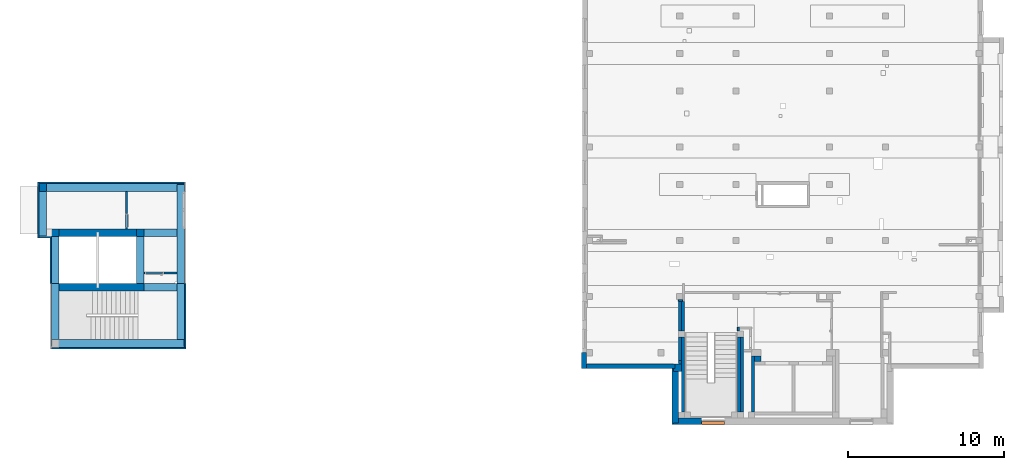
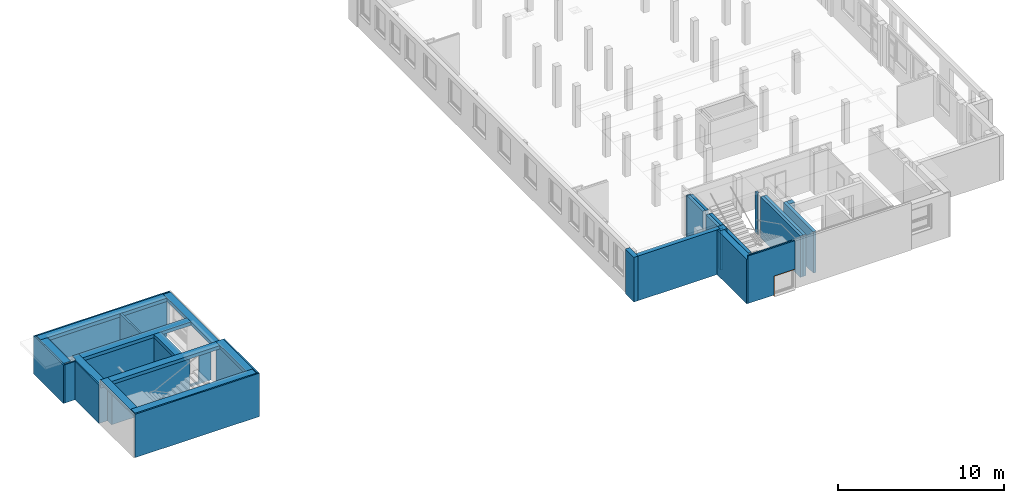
# One storey, part 3 of 27: 37 walls, 1 proxy, 3 openings.
"""IFC4 building model written with IfcOpenShell, lengths in metres."""

from ifc_helpers import new_model, entity, si_unit, converted_unit, derived_unit, frame, frame_2d, origin, origin_with_axes, place, context, subcontext, project, spatial, polyline, rectangle, outline, extrude, clip, bounded_halfspace, faceted_brep, material, layer, layer_set, layer_usage, element, fill, save


model = new_model("IFC4")

# Units and contexts
model_context = context("Model", 3, precision=1e-05, world=origin())
body_context = subcontext(model_context, "Body", "Model", "MODEL_VIEW")
ifc_project = project(units=[si_unit("LENGTHUNIT", "METRE"), si_unit("AREAUNIT", "SQUARE_METRE"), si_unit("VOLUMEUNIT", "CUBIC_METRE"), si_unit("MASSUNIT", "GRAM", prefix="KILO"), converted_unit("PLANEANGLEUNIT", "DEGREE", entity("IfcPlaneAngleMeasure", 0.0174532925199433), si_unit("PLANEANGLEUNIT", "RADIAN"), dimensions=[0, 0, 0, 0, 0, 0, 0]), derived_unit("THERMALTRANSMITTANCEUNIT", [(si_unit("POWERUNIT", "WATT"), 1), (si_unit("THERMODYNAMICTEMPERATUREUNIT", "KELVIN"), -1), (si_unit("LENGTHUNIT", "METRE"), -2)]), derived_unit("VOLUMETRICFLOWRATEUNIT", [(si_unit("LENGTHUNIT", "METRE"), 3), (converted_unit("TIMEUNIT", "hour", entity("IfcTimeMeasure", 3600.0), si_unit("TIMEUNIT", "SECOND"), dimensions=[0, 0, 1, 0, 0, 0, 0]), -1), (si_unit("LENGTHUNIT", "METRE"), -1)])], contexts=[model_context])

# Site, building, storey
site_placement = place(None, origin())
site = spatial("IfcSite", under=ifc_project, at=site_placement, Name="3. ASŘ", CompositionType="ELEMENT")
building_placement = place(site_placement, origin())
building = spatial("IfcBuilding", under=site, at=building_placement, Name="Pavilon C", CompositionType="ELEMENT")
storey_placement = place(building_placement, frame((0.0, 0.0, 10.5)))
storey = spatial("IfcBuildingStorey", under=building, at=storey_placement, Name="Půdorys 4.NP", CompositionType="ELEMENT", Elevation=10.5)

# Walls
ifc_material_1 = material(Name="ZDIVO Z CDm")
ifc_layer_1 = layer(ifc_material_1, 0.5)
ifc_layer_set_1 = layer_set([ifc_layer_1])
ifc_layer_usage_1 = layer_usage(ifc_layer_set_1, "AXIS2", "POSITIVE", 0.0)
wall_1_placement = place(storey_placement, frame((-9.07499999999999, 3.95, -0.42)))
element("IfcWall", 1, at=wall_1_placement, inside=storey, material=ifc_layer_usage_1, Name="ZDIVO Z CDm", context=body_context, shape_type="SweptSolid", body=[
    extrude(rectangle(XDim=5.45, YDim=0.5, at=frame_2d((2.725, 0.25), x_axis=(1.0, 0.0))), origin_with_axes(), (0.0, 0.0, 1.0), 2.95),
])
ifc_material_2 = material(Name="ZDIVO Z CDm")
ifc_layer_2 = layer(ifc_material_2, 0.5)
ifc_layer_set_2 = layer_set([ifc_layer_2])
ifc_layer_usage_2 = layer_usage(ifc_layer_set_2, "AXIS2", "POSITIVE", 0.0)
wall_2_placement = place(storey_placement, frame((-3.62499999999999, 4.45, -0.42), z_axis=(0.0, 0.0, 1.0), x_axis=(0.0, 1.0, 0.0)))
element("IfcWall", 2, at=wall_2_placement, inside=storey, material=ifc_layer_usage_2, Name="ZDIVO Z CDm", context=body_context, shape_type="SweptSolid", body=[
    extrude(rectangle(XDim=3.5, YDim=0.5, at=frame_2d((1.75, 0.25), x_axis=(1.0, 0.0))), origin_with_axes(), (0.0, 0.0, 1.0), 2.57),
])
ifc_material_3 = material(Name="ZELEZOBETONOVÁ KCE")
ifc_layer_3 = layer(ifc_material_3, 0.3)
ifc_layer_set_3 = layer_set([ifc_layer_3])
ifc_layer_usage_3 = layer_usage(ifc_layer_set_3, "AXIS2", "POSITIVE", 0.0)
wall_3_placement = place(storey_placement, frame((24.75, -1.02, -0.1)))
element("IfcWall", 3, at=wall_3_placement, inside=storey, material=ifc_layer_usage_3, Name="ZELEZOBETONOVÁ KCE", context=body_context, shape_type="SweptSolid", body=[
    extrude(rectangle(XDim=5.7, YDim=0.3, at=frame_2d((2.85, 0.15), x_axis=(1.0, 0.0))), origin_with_axes(), (0.0, 0.0, 1.0), 3.3),
])
ifc_material_4 = material(Name="ZELEZOBETONOVÁ KCE")
ifc_layer_4 = layer(ifc_material_4, 0.3)
ifc_layer_set_4 = layer_set([ifc_layer_4])
ifc_layer_usage_4 = layer_usage(ifc_layer_set_4, "AXIS2", "POSITIVE", 0.0)
wall_4_placement = place(storey_placement, frame((24.45, -2.72848410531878e-15, -0.1), z_axis=(0.0, 0.0, 1.0), x_axis=(0.0, -1.0, 0.0)))
element("IfcWall", 4, at=wall_4_placement, inside=storey, material=ifc_layer_usage_4, Name="ZELEZOBETONOVÁ KCE", context=body_context, shape_type="SweptSolid", body=[
    extrude(rectangle(XDim=1.02, YDim=0.3, at=frame_2d((0.51, 0.15), x_axis=(1.0, 0.0))), origin_with_axes(), (0.0, 0.0, 1.0), 3.3),
])
ifc_material_5 = material(Name="ZDIVO Z CDm")
ifc_layer_5 = layer(ifc_material_5, 0.35)
ifc_layer_set_5 = layer_set([ifc_layer_5])
ifc_layer_usage_5 = layer_usage(ifc_layer_set_5, "AXIS2", "POSITIVE", 0.0)
wall_5_placement = place(storey_placement, frame((35.95, -0.200000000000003, -0.1), z_axis=(0.0, 0.0, 1.0), x_axis=(-1.0, 0.0, 0.0)))
element("IfcWall", 5, at=wall_5_placement, inside=storey, material=ifc_layer_usage_5, Name="ZDIVO Z CDm", context=body_context, shape_type="SweptSolid", body=[
    extrude(rectangle(XDim=0.4, YDim=0.35, at=frame_2d((0.2, 0.175), x_axis=(1.0, 0.0))), origin_with_axes(), (0.0, 0.0, 1.0), 3.05),
])
ifc_material_6 = material(Name="ZDIVO Z CDm")
ifc_layer_6 = layer(ifc_material_6, 0.2)
ifc_layer_set_6 = layer_set([ifc_layer_6])
ifc_layer_usage_6 = layer_usage(ifc_layer_set_6, "AXIS2", "POSITIVE", 0.0)
wall_6_placement = place(storey_placement, frame((30.65, -0.499999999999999, -0.1), z_axis=(0.0, 0.0, 1.0), x_axis=(0.0, -1.0, 0.0)))
element("IfcWall", 6, at=wall_6_placement, inside=storey, material=ifc_layer_usage_6, Name="ZDIVO Z CDm", context=body_context, shape_type="SweptSolid", body=[
    extrude(rectangle(XDim=0.220000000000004, YDim=0.2, at=frame_2d((0.110000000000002, 0.1), x_axis=(1.0, 0.0))), origin_with_axes(), (0.0, 0.0, 1.0), 3.05),
])
ifc_material_7 = material(Name="ZDIVO Z CDm")
ifc_layer_7 = layer(ifc_material_7, 0.125)
ifc_layer_set_7 = layer_set([ifc_layer_7])
ifc_layer_usage_7 = layer_usage(ifc_layer_set_7, "AXIS2", "POSITIVE", 0.0)
wall_7_placement = place(storey_placement, frame((34.45, 1.6500125, -0.1), z_axis=(0.0, 0.0, 1.0), x_axis=(0.0, -1.0, 0.0)))
element("IfcWall", 7, at=wall_7_placement, inside=storey, material=ifc_layer_usage_7, Name="ZDIVO Z CDm", context=body_context, shape_type="SweptSolid", body=[
    extrude(rectangle(XDim=0.25, YDim=0.125, at=frame_2d((0.125, 0.0625), x_axis=(1.0, 0.0))), origin_with_axes(), (0.0, 0.0, 1.0), 3.05),
])
ifc_material_8 = material(Name="ZELEZOBETONOVÁ KCE")
ifc_layer_8 = layer(ifc_material_8, 0.2)
ifc_layer_set_8 = layer_set([ifc_layer_8])
ifc_layer_usage_8 = layer_usage(ifc_layer_set_8, "AXIS2", "POSITIVE", 0.0)
wall_8_placement = place(storey_placement, frame((31.05, -3.79999999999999, -0.1), z_axis=(0.0, 0.0, 1.0), x_axis=(0.0, 1.0, 0.0)))
element("IfcWall", 8, at=wall_8_placement, inside=storey, material=ifc_layer_usage_8, Name="ZELEZOBETONOVÁ KCE", context=body_context, shape_type="SweptSolid", body=[
    extrude(rectangle(XDim=4.79999999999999, YDim=0.2, at=frame_2d((2.4, 0.1), x_axis=(1.0, 0.0))), origin_with_axes(), (0.0, 0.0, 1.0), 3.05),
])
ifc_material_9 = material(Name="ZELEZOBETONOVÁ KCE")
ifc_layer_9 = layer(ifc_material_9, 0.2)
ifc_layer_set_9 = layer_set([ifc_layer_9])
ifc_layer_usage_9 = layer_usage(ifc_layer_set_9, "AXIS2", "POSITIVE", 0.0)
wall_9_placement = place(storey_placement, frame((30.85, -0.499999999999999, -0.1), z_axis=(0.0, 0.0, 1.0), x_axis=(0.0, 1.0, 0.0)))
element("IfcWall", 9, at=wall_9_placement, inside=storey, material=ifc_layer_usage_9, Name="ZELEZOBETONOVÁ KCE", context=body_context, shape_type="SweptSolid", body=[
    extrude(rectangle(XDim=1.5, YDim=0.2, at=frame_2d((0.75, 0.1), x_axis=(1.0, 0.0))), origin_with_axes(), (0.0, 0.0, 1.0), 3.05),
])
ifc_material_10 = material(Name="ZELEZOBETONOVÁ KCE")
ifc_layer_10 = layer(ifc_material_10, 0.2)
ifc_layer_set_10 = layer_set([ifc_layer_10])
ifc_layer_usage_10 = layer_usage(ifc_layer_set_10, "AXIS2", "POSITIVE", 0.0)
wall_10_placement = place(storey_placement, frame((30.85, 1.4, -0.1), z_axis=(0.0, 0.0, 1.0), x_axis=(0.0, 1.0, 0.0)))
element("IfcWall", 10, at=wall_10_placement, inside=storey, material=ifc_layer_usage_10, Name="ZELEZOBETONOVÁ KCE", context=body_context, shape_type="SweptSolid", body=[
    extrude(rectangle(XDim=1.9, YDim=0.2, at=frame_2d((0.949999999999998, 0.1), x_axis=(1.0, 0.0))), origin_with_axes(), (0.0, 0.0, 1.0), 3.05),
])
ifc_material_11 = material(Name="ZELEZOBETONOVÁ KCE")
ifc_layer_11 = layer(ifc_material_11, 0.2)
ifc_layer_set_11 = layer_set([ifc_layer_11])
ifc_layer_usage_11 = layer_usage(ifc_layer_set_11, "AXIS2", "POSITIVE", 0.0)
wall_11_placement = place(storey_placement, frame((31.05, 1.4, -0.1), z_axis=(0.0, 0.0, 1.0), x_axis=(0.0, 1.0, 0.0)))
element("IfcWall", 11, at=wall_11_placement, inside=storey, material=ifc_layer_usage_11, Name="ZELEZOBETONOVÁ KCE", context=body_context, shape_type="SweptSolid", body=[
    extrude(rectangle(XDim=1.9, YDim=0.2, at=frame_2d((0.949999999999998, 0.1), x_axis=(1.0, 0.0))), origin_with_axes(), (0.0, 0.0, 1.0), 3.05),
])
ifc_material_12 = material(Name="ZELEZOBETONOVÁ KCE")
ifc_layer_12 = layer(ifc_material_12, 0.2)
ifc_layer_set_12 = layer_set([ifc_layer_12])
ifc_layer_usage_12 = layer_usage(ifc_layer_set_12, "AXIS2", "POSITIVE", 0.0)
wall_12_placement = place(storey_placement, frame((34.45, 1.0, -0.1), z_axis=(0.0, 0.0, 1.0), x_axis=(0.0, -1.0, 0.0)))
element("IfcWall", 12, at=wall_12_placement, inside=storey, material=ifc_layer_usage_12, Name="ZELEZOBETONOVÁ KCE", context=body_context, shape_type="SweptSolid", body=[
    extrude(rectangle(XDim=4.8, YDim=0.2, at=frame_2d((2.4, 0.1), x_axis=(1.0, 0.0))), origin_with_axes(), (0.0, 0.0, 1.0), 3.05),
])
ifc_material_13 = material(Name="ZELEZOBETONOVÁ KCE")
ifc_layer_13 = layer(ifc_material_13, 0.2)
ifc_layer_set_13 = layer_set([ifc_layer_13])
ifc_layer_usage_13 = layer_usage(ifc_layer_set_13, "AXIS2", "POSITIVE", 0.0)
wall_13_placement = place(storey_placement, frame((34.65, 1.0, -0.1), z_axis=(0.0, 0.0, 1.0), x_axis=(0.0, -1.0, 0.0)))
element("IfcWall", 13, at=wall_13_placement, inside=storey, material=ifc_layer_usage_13, Name="ZELEZOBETONOVÁ KCE", context=body_context, shape_type="SweptSolid", body=[
    extrude(rectangle(XDim=4.8, YDim=0.2, at=frame_2d((2.4, 0.1), x_axis=(1.0, 0.0))), origin_with_axes(), (0.0, 0.0, 1.0), 3.05),
])
ifc_material_14 = material(Name="ZDIVO Z CDm")
ifc_layer_14 = layer(ifc_material_14, 0.1)
ifc_layer_set_14 = layer_set([ifc_layer_14])
ifc_layer_usage_14 = layer_usage(ifc_layer_set_14, "AXIS2", "POSITIVE", 0.0)
wall_14_placement = place(storey_placement, frame((30.65, 3.3, -0.1)))
element("IfcWall", 14, at=wall_14_placement, inside=storey, material=ifc_layer_usage_14, Name="ZDIVO Z CDm", context=body_context, shape_type="SweptSolid", body=[
    extrude(rectangle(XDim=0.275, YDim=0.1, at=frame_2d((0.1375, 0.05), x_axis=(1.0, 0.0))), origin_with_axes(), (0.0, 0.0, 1.0), 3.05),
])
ifc_material_15 = material(Name="ZELEZOBETONOVÁ KCE")
ifc_layer_15 = layer(ifc_material_15, 0.2)
ifc_layer_set_15 = layer_set([ifc_layer_15])
ifc_layer_usage_15 = layer_usage(ifc_layer_set_15, "AXIS2", "POSITIVE", 0.0)
wall_15_placement = place(storey_placement, frame((35.55, -3.80000000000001, -0.1), z_axis=(0.0, 0.0, 1.0), x_axis=(0.0, 1.0, 0.0)))
element("IfcWall", 15, at=wall_15_placement, inside=storey, material=ifc_layer_usage_15, Name="ZELEZOBETONOVÁ KCE", context=body_context, shape_type="SweptSolid", body=[
    extrude(rectangle(XDim=3.60000000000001, YDim=0.2, at=frame_2d((1.8, 0.1), x_axis=(1.0, 0.0))), origin_with_axes(), (0.0, 0.0, 1.0), 3.05),
])
ifc_material_16 = material(Name="ZDIVO Z CDm")
ifc_layer_16 = layer(ifc_material_16, 0.48)
ifc_layer_set_16 = layer_set([ifc_layer_16])
ifc_layer_usage_16 = layer_usage(ifc_layer_set_16, "AXIS2", "POSITIVE", 0.0)
wall_16_placement = place(storey_placement, frame((30.35, -1.2, -0.1)))
element("IfcWall", 16, at=wall_16_placement, inside=storey, material=ifc_layer_usage_16, Name="ZDIVO Z CDm", context=body_context, shape_type="SweptSolid", body=[
    extrude(outline(polyline([(0.0, 0.0), (0.499999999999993, 0.0), (0.499999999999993, 0.48), (0.0999999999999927, 0.48), (0.0999999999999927, 0.18), (0.0, 0.18), (0.0, 0.0)])), origin_with_axes(), (0.0, 0.0, 1.0), 3.3),
])

# Wall, opening
ifc_material_17 = material(Name="ZDIVO Z CDm")
ifc_layer_17 = layer(ifc_material_17, 0.125)
ifc_layer_set_17 = layer_set([ifc_layer_17])
ifc_layer_usage_17 = layer_usage(ifc_layer_set_17, "AXIS2", "POSITIVE", 0.0)
wall_17_placement = place(storey_placement, frame((-4.79999999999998, 10.35, -0.42), z_axis=(0.0, 0.0, 1.0), x_axis=(0.0, -1.0, 0.0)))
wall_17 = element("IfcWall", 17, at=wall_17_placement, inside=storey, material=ifc_layer_usage_17, Name="ZDIVO Z CDm", context=body_context, shape_type="SweptSolid", body=[
    extrude(rectangle(XDim=2.4, YDim=0.125, at=frame_2d((1.2, 0.0625), x_axis=(1.0, 0.0))), origin_with_axes(), (0.0, 0.0, 1.0), 2.82),
])
opening_1_placement = place(wall_17_placement, frame((2.325, 0.125, 0.12), z_axis=(0.0, -1.0, 0.0), x_axis=(0.0, 0.0, 1.0)))
element("IfcOpeningElement", 18, at=opening_1_placement, cuts=wall_17, Name="Dveřní otvor", ObjectType="Opening", context=body_context, shape_type="SweptSolid", body=[
    extrude(outline(polyline([(0.0, 0.9), (2.02, 0.9), (2.02, 0.0), (0.0, 0.0), (0.0, 0.9)])), origin_with_axes(), (0.0, 0.0, 1.0), 0.125),
])

# Wall
ifc_material_18 = material(Name="EPS")
ifc_layer_18 = layer(ifc_material_18, 0.1)
ifc_material_19 = material(Name="ZELEZOBETONOVÁ KCE")
ifc_layer_19 = layer(ifc_material_19, 0.3)
ifc_layer_set_18 = layer_set([ifc_layer_18, ifc_layer_19])
ifc_layer_usage_18 = layer_usage(ifc_layer_set_18, "AXIS2", "POSITIVE", -0.1)
wall_18_placement = place(storey_placement, frame((30.25, -1.02, -0.1), z_axis=(0.0, 0.0, 1.0), x_axis=(0.0, -1.0, 0.0)))
element("IfcWall", 19, at=wall_18_placement, inside=storey, material=ifc_layer_usage_18, Name="ZELEZOBETONOVÁ KCE", context=body_context, shape_type="SweptSolid", body=[
    extrude(outline(polyline([(-3.58, 0.0), (0.0, 0.0), (0.0, 0.1), (-0.1, 0.1), (-0.1, 0.4), (-3.4, 0.4), (-3.4, 0.1), (-3.58, 0.1), (-3.58, 0.0)])), frame((3.58, 0.0, 0.0), z_axis=(0.0, 0.0, 1.0), x_axis=(1.0, 0.0, 0.0)), (0.0, 0.0, 1.0), 3.3),
])

# Wall, opening, proxy
ifc_material_20 = material(Name="EPS")
ifc_layer_20 = layer(ifc_material_20, 0.1)
ifc_material_21 = material(Name="ZELEZOBETONOVÁ KCE")
ifc_layer_21 = layer(ifc_material_21, 0.3)
ifc_layer_set_19 = layer_set([ifc_layer_20, ifc_layer_21])
ifc_layer_usage_19 = layer_usage(ifc_layer_set_19, "AXIS2", "POSITIVE", -0.1)
wall_19_placement = place(storey_placement, frame((30.35, -4.6, -0.1)))
wall_19 = element("IfcWall", 20, at=wall_19_placement, inside=storey, material=ifc_layer_usage_19, Name="ZELEZOBETONOVÁ KCE", context=body_context, shape_type="Clipping", body=[
    clip(extrude(outline(polyline([(0.3, 0.4), (0.3, 0.1), (0.0, 0.1), (0.0, 0.0), (3.26, 0.0), (3.26, 0.4), (0.3, 0.4)])), origin_with_axes(), (0.0, 0.0, 1.0), 3.5), bounded_halfspace(frame((1.78, 0.25, 3.3), z_axis=(0.0, 0.0, -1.0), x_axis=(1.0, 0.0, 0.0)), True, origin_with_axes(), polyline([(0.3, 0.1), (3.26, 0.1), (3.26, 0.4), (0.3, 0.4), (0.3, 0.1)]))),
])
opening_2_placement = place(wall_19_placement, frame((1.8, 0.0, -0.1), z_axis=(0.0, 1.0, 0.0), x_axis=(0.0, 0.0, 1.0)))
opening_2 = element("IfcOpeningElement", 21, at=opening_2_placement, cuts=wall_19, Name="Okenní otvor", ObjectType="Opening", context=body_context, shape_type="SweptSolid", body=[
    extrude(outline(polyline([(0.0, 1.5), (1.5, 1.5), (1.5, 0.0), (0.0, 0.0), (0.0, 1.5)])), origin_with_axes(), (0.0, 0.0, 1.0), 0.1),
    extrude(outline(polyline([(0.0, 1.5), (1.5, 1.5), (1.5, 0.0), (0.0, 0.0), (0.0, 1.5)])), frame((0.0, 0.0, 0.1), z_axis=(0.0, 0.0, 1.0), x_axis=(1.0, 0.0, 0.0)), (0.0, 0.0, 1.0), 0.3),
])
ifc_material_22 = material(Name="EPS")
proxy_placement = place(opening_2_placement, origin())
proxy = element("IfcBuildingElementProxy", 22, at=proxy_placement, inside=storey, material=ifc_material_22, context=body_context, shape_type="Brep", body=[
    faceted_brep([(0.0, 0.0, 0.0), (0.0, 0.0, 0.2), (1.5, 0.0, 0.2), (1.5, 0.0, 0.0), (0.0, 0.0399999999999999, 0.2), (0.0, 0.0399999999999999, 0.0), (1.46, 0.04, 0.0), (1.46, 0.04, 0.2), (1.46, 1.46, 0.2), (1.5, 1.46, 0.2), (1.46, 1.46, 0.0), (1.5, 1.46, 0.0)], [[[0, 1, 2, 3]], [[4, 5, 6, 7]], [[0, 5, 4, 1]], [[8, 9, 2, 1, 4, 7]], [[8, 10, 11, 9]], [[10, 6, 5, 0, 3, 11]], [[3, 2, 9, 11]], [[7, 6, 10, 8]]], orient=[[False], [False], [False], [False], [False], [False], [False], [False]]),
])
fill(opening_2, proxy)

# Walls
ifc_material_23 = material(Name="EPS")
ifc_layer_22 = layer(ifc_material_23, 0.1)
ifc_material_24 = material(Name="ZDIVO Z CDm")
ifc_layer_23 = layer(ifc_material_24, 0.499999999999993)
ifc_layer_set_20 = layer_set([ifc_layer_22, ifc_layer_23])
ifc_layer_usage_20 = layer_usage(ifc_layer_set_20, "AXIS2", "POSITIVE", -0.1)
wall_20_placement = place(storey_placement, frame((-9.57499999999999, 0.250000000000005, -0.42)))
element("IfcWall", 23, at=wall_20_placement, inside=storey, material=ifc_layer_usage_20, Name="ZDIVO Z CDm", context=body_context, shape_type="Clipping", body=[
    clip(extrude(outline(polyline([(0.0, 0.0), (8.64999999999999, 0.0), (8.64999999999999, 0.1), (8.54999999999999, 0.1), (8.55, 0.599999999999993), (0.499999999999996, 0.599999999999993), (0.499999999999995, 0.1), (0.0, 0.1), (0.0, 0.0)])), origin_with_axes(), (0.0, 0.0, 1.0), 3.2), bounded_halfspace(frame((4.525, 0.349999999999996, 2.95), z_axis=(0.0, 0.0, -1.0), x_axis=(1.0, 0.0, 0.0)), True, origin_with_axes(), polyline([(0.499999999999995, 0.1), (8.54999999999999, 0.1), (8.55, 0.599999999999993), (0.499999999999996, 0.599999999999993), (0.499999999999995, 0.1)]))),
])
ifc_material_25 = material(Name="EPS")
ifc_layer_24 = layer(ifc_material_25, 0.1)
ifc_material_26 = material(Name="ZDIVO Z CDm")
ifc_layer_25 = layer(ifc_material_26, 0.499999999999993)
ifc_layer_set_21 = layer_set([ifc_layer_24, ifc_layer_25])
ifc_layer_usage_21 = layer_usage(ifc_layer_set_21, "AXIS2", "POSITIVE", -0.1)
wall_21_placement = place(storey_placement, frame((-0.924999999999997, 0.350000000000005, -0.42), z_axis=(0.0, 0.0, 1.0), x_axis=(1.9964517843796e-15, 1.0, 0.0)))
element("IfcWall", 24, at=wall_21_placement, inside=storey, material=ifc_layer_usage_21, Name="ZDIVO Z CDm", context=body_context, shape_type="Clipping", body=[
    clip(extrude(outline(polyline([(0.500000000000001, 9.98225892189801e-16), (0.500000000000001, -0.499999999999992), (9.98225892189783e-16, -0.499999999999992), (1.19787107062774e-15, -0.599999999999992), (4.1, -0.599999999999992), (4.1, 9.09494701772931e-16), (0.500000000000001, 9.98225892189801e-16)])), frame((-1.19787107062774e-15, 0.599999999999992, 0.0), z_axis=(0.0, 0.0, 1.0), x_axis=(1.0, 0.0, 0.0)), (0.0, 0.0, 1.0), 3.2), bounded_halfspace(frame((2.3, 0.349999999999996, 2.95), z_axis=(0.0, 0.0, -1.0), x_axis=(1.0, -2.46475528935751e-17, 0.0)), True, origin_with_axes(), polyline([(0.5, 0.1), (4.1, 0.1), (4.1, 0.599999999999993), (0.5, 0.599999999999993), (0.5, 0.1)]))),
])
ifc_material_27 = material(Name="EPS")
ifc_layer_26 = layer(ifc_material_27, 0.1)
ifc_material_28 = material(Name="ZDIVO Z CDm")
ifc_layer_27 = layer(ifc_material_28, 0.5)
ifc_layer_set_22 = layer_set([ifc_layer_26, ifc_layer_27])
ifc_layer_usage_22 = layer_usage(ifc_layer_set_22, "AXIS2", "POSITIVE", -0.1)
wall_22_placement = place(storey_placement, frame((-9.67499999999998, 7.35, -0.42), z_axis=(0.0, 0.0, 1.0), x_axis=(0.0, -1.0, 0.0)))
element("IfcWall", 25, at=wall_22_placement, inside=storey, material=ifc_layer_usage_22, Name="ZDIVO Z CDm", context=body_context, shape_type="Clipping", body=[
    clip(extrude(outline(polyline([(-3.0, 0.6), (-3.0, 0.1), (-2.9, 0.1), (-2.9, 0.0), (0.0, 0.0), (0.0, 0.6), (-3.0, 0.6)])), frame((2.9, 0.0, 0.0), z_axis=(0.0, 0.0, 1.0), x_axis=(1.0, 0.0, 0.0)), (0.0, 0.0, 1.0), 2.82), bounded_halfspace(frame((1.12, 0.299999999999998, 2.57), z_axis=(0.0, 0.0, -1.0), x_axis=(1.0, 0.0, 0.0)), True, origin_with_axes(), polyline([(0.0, 0.1), (2.9, 0.1), (2.9, 0.6), (-0.1, 0.6), (-0.1, 0.1), (0.0, 0.1)]))),
])
ifc_material_29 = material(Name="EPS")
ifc_layer_28 = layer(ifc_material_29, 0.1)
ifc_material_30 = material(Name="ZDIVO Z CDm")
ifc_layer_29 = layer(ifc_material_30, 0.5)
ifc_layer_set_23 = layer_set([ifc_layer_28, ifc_layer_29])
ifc_layer_usage_23 = layer_usage(ifc_layer_set_23, "AXIS2", "POSITIVE", -0.1)
wall_23_placement = place(storey_placement, frame((-10.475, 10.95, -0.42), z_axis=(0.0, 0.0, 1.0), x_axis=(0.0, -1.0, 0.0)))
element("IfcWall", 26, at=wall_23_placement, inside=storey, material=ifc_layer_usage_23, Name="ZDIVO Z CDm", context=body_context, shape_type="Clipping", body=[
    clip(extrude(outline(polyline([(-3.6, 0.0), (0.0, 0.0), (0.0, 0.1), (-0.1, 0.1), (-0.1, 0.6), (-3.5, 0.6), (-3.5, 0.1), (-3.6, 0.1), (-3.6, 0.0)])), frame((3.6, 0.0, 0.0), z_axis=(0.0, 0.0, 1.0), x_axis=(1.0, 0.0, 0.0)), (0.0, 0.0, 1.0), 2.82), bounded_halfspace(frame((1.8, 0.35, 2.57), z_axis=(0.0, 0.0, -1.0), x_axis=(1.0, 0.0, 0.0)), True, origin_with_axes(), polyline([(0.1, 0.1), (3.5, 0.1), (3.5, 0.6), (0.1, 0.6), (0.1, 0.1)]))),
])
ifc_material_31 = material(Name="ZDIVO Z CDm")
ifc_layer_30 = layer(ifc_material_31, 0.5)
ifc_layer_set_24 = layer_set([ifc_layer_30])
ifc_layer_usage_24 = layer_usage(ifc_layer_set_24, "AXIS2", "POSITIVE", 0.0)
wall_24_placement = place(storey_placement, frame((-4.12499999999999, 7.95, -0.42), z_axis=(0.0, 0.0, 1.0), x_axis=(-1.0, 0.0, 0.0)))
element("IfcWall", 27, at=wall_24_placement, inside=storey, material=ifc_layer_usage_24, Name="ZDIVO Z CDm", context=body_context, shape_type="SweptSolid", body=[
    extrude(rectangle(XDim=4.94999999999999, YDim=0.5, at=frame_2d((2.475, 0.25), x_axis=(1.0, 0.0))), origin_with_axes(), (0.0, 0.0, 1.0), 2.57),
])
ifc_material_32 = material(Name="EPS")
ifc_layer_31 = layer(ifc_material_32, 0.1)
ifc_material_33 = material(Name="ZDIVO Z CDm")
ifc_layer_32 = layer(ifc_material_33, 0.5)
ifc_layer_set_25 = layer_set([ifc_layer_31, ifc_layer_32])
ifc_layer_usage_25 = layer_usage(ifc_layer_set_25, "AXIS2", "POSITIVE", -0.1)
wall_25_placement = place(storey_placement, frame((-10.375, 7.35, -0.42)))
element("IfcWall", 28, at=wall_25_placement, inside=storey, material=ifc_layer_usage_25, Name="ZDIVO Z CDm", context=body_context, shape_type="Clipping", body=[
    clip(extrude(outline(polyline([(0.0, 0.0), (0.8, 0.0), (0.8, 0.1), (1.3, 0.1), (1.3, 0.6), (0.5, 0.6), (0.5, 0.1), (0.0, 0.1), (0.0, 0.0)])), origin_with_axes(), (0.0, 0.0, 1.0), 2.82), bounded_halfspace(frame((0.879999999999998, 0.3, 2.57), z_axis=(0.0, 0.0, -1.0), x_axis=(1.0, 0.0, 0.0)), True, origin_with_axes(), polyline([(0.8, 0.1), (1.3, 0.1), (1.3, 0.6), (0.5, 0.6), (0.5, 0.1), (0.8, 0.1)]))),
])

# Wall, opening
ifc_material_34 = material(Name="ZDIVO Z CDm")
ifc_layer_33 = layer(ifc_material_34, 0.125000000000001)
ifc_layer_set_26 = layer_set([ifc_layer_33])
ifc_layer_usage_26 = layer_usage(ifc_layer_set_26, "AXIS2", "POSITIVE", 0.0)
wall_26_placement = place(storey_placement, frame((-3.62499999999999, 5.05, -0.42)))
wall_26 = element("IfcWall", 29, at=wall_26_placement, inside=storey, material=ifc_layer_usage_26, Name="ZDIVO Z CDm", context=body_context, shape_type="SweptSolid", body=[
    extrude(rectangle(XDim=2.1, YDim=0.125000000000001, at=frame_2d((1.05, 0.0625000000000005), x_axis=(1.0, 0.0))), origin_with_axes(), (0.0, 0.0, 1.0), 2.57),
])
opening_3_placement = place(wall_26_placement, frame((0.075, 0.0, 0.12), z_axis=(0.0, 1.0, 0.0), x_axis=(0.0, 0.0, 1.0)))
element("IfcOpeningElement", 30, at=opening_3_placement, cuts=wall_26, Name="Dveřní otvor", ObjectType="Opening", context=body_context, shape_type="SweptSolid", body=[
    extrude(outline(polyline([(0.0, 1.2), (2.02, 1.2), (2.02, 0.0), (0.0, 0.0), (0.0, 1.2)])), origin_with_axes(), (0.0, 0.0, 1.0), 0.125000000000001),
])

# Walls
ifc_material_35 = material(Name="EPS")
ifc_layer_34 = layer(ifc_material_35, 0.1)
ifc_material_36 = material(Name="ZDIVO Z CDm")
ifc_layer_35 = layer(ifc_material_36, 0.5)
ifc_layer_set_27 = layer_set([ifc_layer_34, ifc_layer_35])
ifc_layer_usage_27 = layer_usage(ifc_layer_set_27, "AXIS2", "POSITIVE", -0.1)
wall_27_placement = place(storey_placement, frame((-1.02499999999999, 10.95, -0.42), z_axis=(0.0, 0.0, 1.0), x_axis=(-1.0, 0.0, 0.0)))
element("IfcWall", 31, at=wall_27_placement, inside=storey, material=ifc_layer_usage_27, Name="ZDIVO Z CDm", context=body_context, shape_type="Clipping", body=[
    clip(extrude(outline(polyline([(-9.34999999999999, -0.6), (0.0, -0.6), (0.0, -0.5), (-0.5, -0.5), (-0.5, 0.0), (-8.84999999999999, 0.0), (-8.84999999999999, -0.5), (-9.34999999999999, -0.5), (-9.34999999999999, -0.6)])), frame((9.34999999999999, 0.6, 0.0), z_axis=(0.0, 0.0, 1.0), x_axis=(1.0, 0.0, 0.0)), (0.0, 0.0, 1.0), 2.82), bounded_halfspace(frame((4.675, 0.35, 2.57), z_axis=(0.0, 0.0, -1.0), x_axis=(1.0, 0.0, 0.0)), True, origin_with_axes(), polyline([(0.5, 0.1), (8.84999999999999, 0.1), (8.84999999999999, 0.6), (0.5, 0.6), (0.5, 0.1)]))),
])
ifc_material_37 = material(Name="ZELEZOBETONOVÁ KCE")
ifc_layer_36 = layer(ifc_material_37, 0.5)
ifc_layer_set_28 = layer_set([ifc_layer_36])
ifc_layer_usage_28 = layer_usage(ifc_layer_set_28, "AXIS2", "POSITIVE", 0.0)
wall_28_placement = place(storey_placement, frame((-1.52499999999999, 4.45, 2.53), z_axis=(0.0, 0.0, 1.0), x_axis=(-1.0, 0.0, 0.0)))
element("IfcWall", 32, at=wall_28_placement, inside=storey, material=ifc_layer_usage_28, context=body_context, shape_type="SweptSolid", body=[
    extrude(rectangle(XDim=7.55, YDim=0.5, at=frame_2d((3.775, 0.25), x_axis=(1.0, 0.0))), origin_with_axes(), (0.0, 0.0, 1.0), 0.25),
])
ifc_material_38 = material(Name="ZELEZOBETONOVÁ KCE")
ifc_layer_37 = layer(ifc_material_38, 0.5)
ifc_layer_set_29 = layer_set([ifc_layer_37])
ifc_layer_usage_29 = layer_usage(ifc_layer_set_29, "AXIS2", "POSITIVE", 0.0)
wall_29_placement = place(storey_placement, frame((-9.07499999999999, 7.45, 2.15)))
element("IfcWall", 33, at=wall_29_placement, inside=storey, material=ifc_layer_usage_29, context=body_context, shape_type="SweptSolid", body=[
    extrude(rectangle(XDim=7.55, YDim=0.5, at=frame_2d((3.775, 0.25), x_axis=(1.0, 0.0))), origin_with_axes(), (0.0, 0.0, 1.0), 0.25),
])
ifc_material_39 = material(Name="ZELEZOBETONOVÁ KCE")
ifc_layer_38 = layer(ifc_material_39, 0.5)
ifc_layer_set_30 = layer_set([ifc_layer_38])
ifc_layer_usage_30 = layer_usage(ifc_layer_set_30, "AXIS2", "POSITIVE", 0.0)
wall_30_placement = place(storey_placement, frame((-4.12499999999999, 7.45, 2.15), z_axis=(0.0, 0.0, 1.0), x_axis=(0.0, -1.0, 0.0)))
element("IfcWall", 34, at=wall_30_placement, inside=storey, material=ifc_layer_usage_30, context=body_context, shape_type="SweptSolid", body=[
    extrude(rectangle(XDim=3.0, YDim=0.5, at=frame_2d((1.5, 0.25), x_axis=(1.0, 0.0))), origin_with_axes(), (0.0, 0.0, 1.0), 0.25),
])
ifc_material_40 = material(Name="ZELEZOBETONOVÁ KCE")
ifc_layer_39 = layer(ifc_material_40, 0.45)
ifc_material_41 = material(Name="LIGNOPOR")
ifc_layer_40 = layer(ifc_material_41, 0.05)
ifc_layer_set_31 = layer_set([ifc_layer_39, ifc_layer_40])
ifc_layer_usage_31 = layer_usage(ifc_layer_set_31, "AXIS2", "POSITIVE", 0.0)
wall_31_placement = place(storey_placement, frame((-10.325, 10.35, 2.15), z_axis=(0.0, 0.0, 1.0), x_axis=(1.0, 8.26813365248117e-16, 0.0)))
element("IfcWall", 35, at=wall_31_placement, inside=storey, material=ifc_layer_usage_31, context=body_context, shape_type="SweptSolid", body=[
    extrude(outline(polyline([(0.05, -4.13406682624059e-17), (8.84999999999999, -4.13406682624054e-17), (8.84999999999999, 0.45), (9.29999999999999, 0.45), (9.29999999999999, 0.5), (4.13406682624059e-16, 0.5), (3.72066014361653e-16, 0.45), (0.0500000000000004, 0.45), (0.05, -4.13406682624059e-17)])), frame((-0.05, 4.13406682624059e-17, 0.0), z_axis=(0.0, 0.0, 1.0), x_axis=(1.0, 0.0, 0.0)), (0.0, 0.0, 1.0), 0.25),
])
ifc_material_42 = material(Name="ZELEZOBETONOVÁ KCE")
ifc_layer_41 = layer(ifc_material_42, 0.45)
ifc_material_43 = material(Name="LIGNOPOR")
ifc_layer_42 = layer(ifc_material_43, 0.05)
ifc_layer_set_32 = layer_set([ifc_layer_41, ifc_layer_42])
ifc_layer_usage_32 = layer_usage(ifc_layer_set_32, "AXIS2", "POSITIVE", 0.0)
wall_32_placement = place(storey_placement, frame((-9.87499999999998, 7.5, 2.15), z_axis=(0.0, 0.0, 1.0), x_axis=(0.0, 1.0, 0.0)))
element("IfcWall", 36, at=wall_32_placement, inside=storey, material=ifc_layer_usage_32, context=body_context, shape_type="SweptSolid", body=[
    extrude(outline(polyline([(0.05, -0.5), (2.9, -0.5), (2.9, -0.05), (3.35, -0.05), (3.35, 0.0), (0.0, 0.0), (0.0, -0.05), (0.05, -0.05), (0.05, -0.5)])), frame((-0.05, 0.5, 0.0), z_axis=(0.0, 0.0, 1.0), x_axis=(1.0, 0.0, 0.0)), (0.0, 0.0, 1.0), 0.25),
])
ifc_material_44 = material(Name="ZELEZOBETONOVÁ KCE")
ifc_layer_43 = layer(ifc_material_44, 0.45)
ifc_material_45 = material(Name="LIGNOPOR")
ifc_layer_44 = layer(ifc_material_45, 0.05)
ifc_layer_set_33 = layer_set([ifc_layer_43, ifc_layer_44])
ifc_layer_usage_33 = layer_usage(ifc_layer_set_33, "AXIS2", "POSITIVE", 0.0)
wall_33_placement = place(storey_placement, frame((-9.07499999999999, 4.45, 2.15), z_axis=(0.0, 0.0, 1.0), x_axis=(0.0, 1.0, 0.0)))
element("IfcWall", 37, at=wall_33_placement, inside=storey, material=ifc_layer_usage_33, context=body_context, shape_type="SweptSolid", body=[
    extrude(outline(polyline([(0.0, -0.5), (3.5, -0.5), (3.5, -0.05), (3.05, -0.05), (3.05, 0.0), (0.0, 0.0), (0.0, -0.5)])), frame((0.0, 0.5, 0.0), z_axis=(0.0, 0.0, 1.0), x_axis=(1.0, 0.0, 0.0)), (0.0, 0.0, 1.0), 0.25),
])
ifc_material_46 = material(Name="ZELEZOBETONOVÁ KCE")
ifc_layer_45 = layer(ifc_material_46, 0.45)
ifc_material_47 = material(Name="LIGNOPOR")
ifc_layer_46 = layer(ifc_material_47, 0.05)
ifc_layer_set_34 = layer_set([ifc_layer_45, ifc_layer_46])
ifc_layer_usage_34 = layer_usage(ifc_layer_set_34, "AXIS2", "POSITIVE", 0.0)
wall_34_placement = place(storey_placement, frame((-9.075, 0.850000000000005, 2.53), z_axis=(0.0, 0.0, 1.0), x_axis=(2.02109933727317e-15, 1.0, 0.0)))
element("IfcWall", 38, at=wall_34_placement, inside=storey, material=ifc_layer_usage_34, context=body_context, shape_type="SweptSolid", body=[
    extrude(outline(polyline([(0.0, 0.0), (1.01054966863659e-16, -0.05), (0.45, -0.0499999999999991), (0.450000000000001, -0.499999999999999), (4.05, -0.499999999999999), (4.05, 9.09494701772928e-16), (0.0, 0.0)])), frame((-0.450000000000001, 0.499999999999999, 0.0), z_axis=(0.0, 0.0, 1.0), x_axis=(1.0, 0.0, 0.0)), (0.0, 0.0, 1.0), 0.25),
])
ifc_material_48 = material(Name="ZELEZOBETONOVÁ KCE")
ifc_layer_47 = layer(ifc_material_48, 0.45)
ifc_material_49 = material(Name="LIGNOPOR")
ifc_layer_48 = layer(ifc_material_49, 0.05)
ifc_layer_set_35 = layer_set([ifc_layer_47, ifc_layer_48])
ifc_layer_usage_35 = layer_usage(ifc_layer_set_35, "AXIS2", "POSITIVE", 0.0)
wall_35_placement = place(storey_placement, frame((-1.075, 0.850000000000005, 2.53), z_axis=(0.0, 0.0, 1.0), x_axis=(-1.0, 0.0, 0.0)))
element("IfcWall", 39, at=wall_35_placement, inside=storey, material=ifc_layer_usage_35, context=body_context, shape_type="SweptSolid", body=[
    extrude(outline(polyline([(-8.5, -0.5), (-0.05, -0.5), (-0.05, -0.05), (0.0, -0.05), (0.0, 0.0), (-8.55, 0.0), (-8.55, -0.05), (-8.5, -0.05), (-8.5, -0.5)])), frame((8.5, 0.5, 0.0), z_axis=(0.0, 0.0, 1.0), x_axis=(1.0, 0.0, 0.0)), (0.0, 0.0, 1.0), 0.25),
])
ifc_material_50 = material(Name="ZELEZOBETONOVÁ KCE")
ifc_layer_49 = layer(ifc_material_50, 0.45)
ifc_material_51 = material(Name="LIGNOPOR")
ifc_layer_50 = layer(ifc_material_51, 0.05)
ifc_layer_set_36 = layer_set([ifc_layer_49, ifc_layer_50])
ifc_layer_usage_36 = layer_usage(ifc_layer_set_36, "AXIS2", "POSITIVE", 0.0)
wall_36_placement = place(storey_placement, frame((-1.52499999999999, 4.45, 2.53), z_axis=(0.0, 0.0, 1.0), x_axis=(-2.02109933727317e-15, -1.0, 0.0)))
element("IfcWall", 40, at=wall_36_placement, inside=storey, material=ifc_layer_usage_36, context=body_context, shape_type="SweptSolid", body=[
    extrude(outline(polyline([(-4.05, -9.09494701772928e-16), (-0.45, -9.09494701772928e-16), (-0.450000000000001, 0.45), (-9.09494701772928e-16, 0.45), (-1.01054966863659e-15, 0.5), (-4.05, 0.499999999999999), (-4.05, -9.09494701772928e-16)])), frame((4.05, 9.09494701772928e-16, 0.0), z_axis=(0.0, 0.0, 1.0), x_axis=(1.0, 0.0, 0.0)), (0.0, 0.0, 1.0), 0.25),
])
ifc_material_52 = material(Name="ZELEZOBETONOVÁ KCE")
ifc_layer_51 = layer(ifc_material_52, 0.45)
ifc_material_53 = material(Name="LIGNOPOR")
ifc_layer_52 = layer(ifc_material_53, 0.05)
ifc_layer_set_37 = layer_set([ifc_layer_51, ifc_layer_52])
ifc_layer_usage_37 = layer_usage(ifc_layer_set_37, "AXIS2", "POSITIVE", 0.0)
wall_37_placement = place(storey_placement, frame((-1.52499999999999, 10.8, 2.15), z_axis=(0.0, 0.0, 1.0), x_axis=(0.0, -1.0, 0.0)))
element("IfcWall", 41, at=wall_37_placement, inside=storey, material=ifc_layer_usage_37, context=body_context, shape_type="SweptSolid", body=[
    extrude(outline(polyline([(-6.40000000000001, 0.5), (-6.40000000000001, 0.45), (-6.35000000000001, 0.45), (-6.35000000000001, 0.0), (0.0, 0.0), (0.0, 0.5), (-6.40000000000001, 0.5)])), frame((6.35000000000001, 0.0, 0.0), z_axis=(0.0, 0.0, 1.0), x_axis=(1.0, 0.0, 0.0)), (0.0, 0.0, 1.0), 0.25),
])

save(model, "model.ifc")
